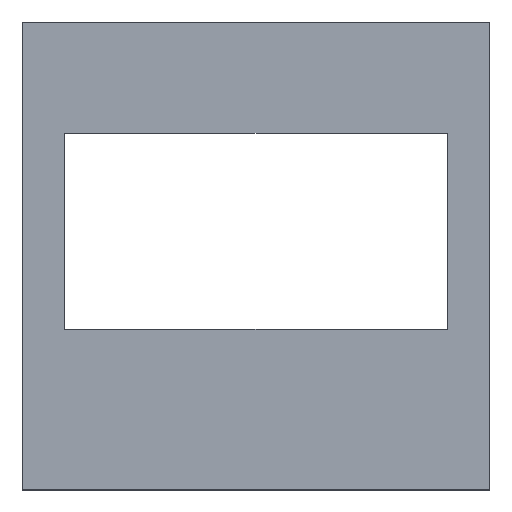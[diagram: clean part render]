
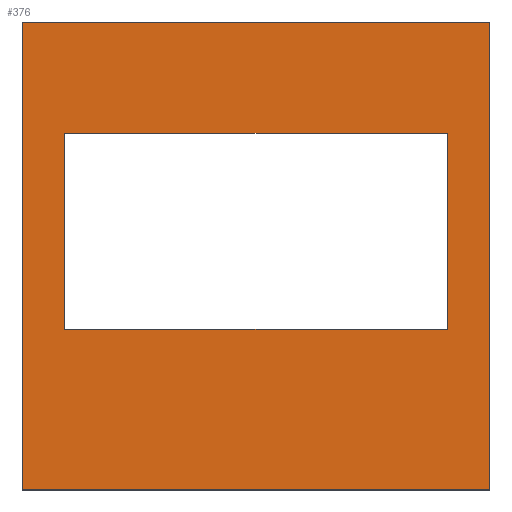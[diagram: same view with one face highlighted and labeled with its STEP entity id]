
A CAD part, top view. The second image highlights one B-rep face of the part: STEP entity #376.
In plain terms, the highlighted planar face has unit normal (0, 0, 1).
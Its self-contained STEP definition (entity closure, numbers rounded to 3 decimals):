
#32 = PLANE('',#33);
#33 = AXIS2_PLACEMENT_3D('',#34,#35,#36);
#34 = CARTESIAN_POINT('',(-13.7,13.7,-2.9));
#35 = DIRECTION('',(0.,1.,0.));
#36 = DIRECTION('',(1.,0.,0.));
#57 = VERTEX_POINT('',#58);
#58 = CARTESIAN_POINT('',(-13.7,13.7,0.));
#72 = PLANE('',#73);
#73 = AXIS2_PLACEMENT_3D('',#74,#75,#76);
#74 = CARTESIAN_POINT('',(-13.7,-13.7,-2.9));
#75 = DIRECTION('',(-1.,0.,0.));
#76 = DIRECTION('',(0.,1.,0.));
#84 = EDGE_CURVE('',#57,#85,#87,.T.);
#85 = VERTEX_POINT('',#86);
#86 = CARTESIAN_POINT('',(13.7,13.7,0.));
#87 = SURFACE_CURVE('',#88,(#92,#99),.PCURVE_S1.);
#88 = LINE('',#89,#90);
#89 = CARTESIAN_POINT('',(-13.7,13.7,0.));
#90 = VECTOR('',#91,1.);
#91 = DIRECTION('',(1.,0.,0.));
#92 = PCURVE('',#32,#93);
#93 = DEFINITIONAL_REPRESENTATION('',(#94),#98);
#94 = LINE('',#95,#96);
#95 = CARTESIAN_POINT('',(0.,-2.9));
#96 = VECTOR('',#97,1.);
#97 = DIRECTION('',(1.,0.));
#98 = ( GEOMETRIC_REPRESENTATION_CONTEXT(2) 
PARAMETRIC_REPRESENTATION_CONTEXT() REPRESENTATION_CONTEXT('2D SPACE',''
  ) );
#99 = PCURVE('',#100,#105);
#100 = PLANE('',#101);
#101 = AXIS2_PLACEMENT_3D('',#102,#103,#104);
#102 = CARTESIAN_POINT('',(0.,0.,0.));
#103 = DIRECTION('',(-0.,-0.,-1.));
#104 = DIRECTION('',(-1.,0.,0.));
#105 = DEFINITIONAL_REPRESENTATION('',(#106),#110);
#106 = LINE('',#107,#108);
#107 = CARTESIAN_POINT('',(13.7,13.7));
#108 = VECTOR('',#109,1.);
#109 = DIRECTION('',(-1.,0.));
#110 = ( GEOMETRIC_REPRESENTATION_CONTEXT(2) 
PARAMETRIC_REPRESENTATION_CONTEXT() REPRESENTATION_CONTEXT('2D SPACE',''
  ) );
#126 = PLANE('',#127);
#127 = AXIS2_PLACEMENT_3D('',#128,#129,#130);
#128 = CARTESIAN_POINT('',(13.7,13.7,-2.9));
#129 = DIRECTION('',(1.,0.,-0.));
#130 = DIRECTION('',(0.,-1.,0.));
#159 = PLANE('',#160);
#160 = AXIS2_PLACEMENT_3D('',#161,#162,#163);
#161 = CARTESIAN_POINT('',(13.7,-13.7,-2.9));
#162 = DIRECTION('',(0.,-1.,0.));
#163 = DIRECTION('',(-1.,0.,0.));
#234 = PLANE('',#235);
#235 = AXIS2_PLACEMENT_3D('',#236,#237,#238);
#236 = CARTESIAN_POINT('',(-11.2,7.2,-1.4));
#237 = DIRECTION('',(0.,1.,0.));
#238 = DIRECTION('',(1.,0.,0.));
#262 = PLANE('',#263);
#263 = AXIS2_PLACEMENT_3D('',#264,#265,#266);
#264 = CARTESIAN_POINT('',(11.2,7.2,-1.4));
#265 = DIRECTION('',(1.,0.,-0.));
#266 = DIRECTION('',(0.,-1.,0.));
#290 = PLANE('',#291);
#291 = AXIS2_PLACEMENT_3D('',#292,#293,#294);
#292 = CARTESIAN_POINT('',(11.2,-4.3,-1.4));
#293 = DIRECTION('',(0.,-1.,0.));
#294 = DIRECTION('',(-1.,0.,0.));
#316 = PLANE('',#317);
#317 = AXIS2_PLACEMENT_3D('',#318,#319,#320);
#318 = CARTESIAN_POINT('',(-11.2,-4.3,-1.4));
#319 = DIRECTION('',(-1.,0.,0.));
#320 = DIRECTION('',(0.,1.,0.));
#333 = EDGE_CURVE('',#85,#334,#336,.T.);
#334 = VERTEX_POINT('',#335);
#335 = CARTESIAN_POINT('',(13.7,-13.7,0.));
#336 = SURFACE_CURVE('',#337,(#341,#348),.PCURVE_S1.);
#337 = LINE('',#338,#339);
#338 = CARTESIAN_POINT('',(13.7,13.7,0.));
#339 = VECTOR('',#340,1.);
#340 = DIRECTION('',(0.,-1.,0.));
#341 = PCURVE('',#126,#342);
#342 = DEFINITIONAL_REPRESENTATION('',(#343),#347);
#343 = LINE('',#344,#345);
#344 = CARTESIAN_POINT('',(0.,-2.9));
#345 = VECTOR('',#346,1.);
#346 = DIRECTION('',(1.,0.));
#347 = ( GEOMETRIC_REPRESENTATION_CONTEXT(2) 
PARAMETRIC_REPRESENTATION_CONTEXT() REPRESENTATION_CONTEXT('2D SPACE',''
  ) );
#348 = PCURVE('',#100,#349);
#349 = DEFINITIONAL_REPRESENTATION('',(#350),#354);
#350 = LINE('',#351,#352);
#351 = CARTESIAN_POINT('',(-13.7,13.7));
#352 = VECTOR('',#353,1.);
#353 = DIRECTION('',(0.,-1.));
#354 = ( GEOMETRIC_REPRESENTATION_CONTEXT(2) 
PARAMETRIC_REPRESENTATION_CONTEXT() REPRESENTATION_CONTEXT('2D SPACE',''
  ) );
#376 = ADVANCED_FACE('',(#377,#425),#100,.F.);
#377 = FACE_BOUND('',#378,.F.);
#378 = EDGE_LOOP('',(#379,#380,#381,#404));
#379 = ORIENTED_EDGE('',*,*,#84,.T.);
#380 = ORIENTED_EDGE('',*,*,#333,.T.);
#381 = ORIENTED_EDGE('',*,*,#382,.T.);
#382 = EDGE_CURVE('',#334,#383,#385,.T.);
#383 = VERTEX_POINT('',#384);
#384 = CARTESIAN_POINT('',(-13.7,-13.7,0.));
#385 = SURFACE_CURVE('',#386,(#390,#397),.PCURVE_S1.);
#386 = LINE('',#387,#388);
#387 = CARTESIAN_POINT('',(13.7,-13.7,0.));
#388 = VECTOR('',#389,1.);
#389 = DIRECTION('',(-1.,0.,0.));
#390 = PCURVE('',#100,#391);
#391 = DEFINITIONAL_REPRESENTATION('',(#392),#396);
#392 = LINE('',#393,#394);
#393 = CARTESIAN_POINT('',(-13.7,-13.7));
#394 = VECTOR('',#395,1.);
#395 = DIRECTION('',(1.,0.));
#396 = ( GEOMETRIC_REPRESENTATION_CONTEXT(2) 
PARAMETRIC_REPRESENTATION_CONTEXT() REPRESENTATION_CONTEXT('2D SPACE',''
  ) );
#397 = PCURVE('',#159,#398);
#398 = DEFINITIONAL_REPRESENTATION('',(#399),#403);
#399 = LINE('',#400,#401);
#400 = CARTESIAN_POINT('',(0.,-2.9));
#401 = VECTOR('',#402,1.);
#402 = DIRECTION('',(1.,0.));
#403 = ( GEOMETRIC_REPRESENTATION_CONTEXT(2) 
PARAMETRIC_REPRESENTATION_CONTEXT() REPRESENTATION_CONTEXT('2D SPACE',''
  ) );
#404 = ORIENTED_EDGE('',*,*,#405,.T.);
#405 = EDGE_CURVE('',#383,#57,#406,.T.);
#406 = SURFACE_CURVE('',#407,(#411,#418),.PCURVE_S1.);
#407 = LINE('',#408,#409);
#408 = CARTESIAN_POINT('',(-13.7,-13.7,0.));
#409 = VECTOR('',#410,1.);
#410 = DIRECTION('',(0.,1.,0.));
#411 = PCURVE('',#100,#412);
#412 = DEFINITIONAL_REPRESENTATION('',(#413),#417);
#413 = LINE('',#414,#415);
#414 = CARTESIAN_POINT('',(13.7,-13.7));
#415 = VECTOR('',#416,1.);
#416 = DIRECTION('',(0.,1.));
#417 = ( GEOMETRIC_REPRESENTATION_CONTEXT(2) 
PARAMETRIC_REPRESENTATION_CONTEXT() REPRESENTATION_CONTEXT('2D SPACE',''
  ) );
#418 = PCURVE('',#72,#419);
#419 = DEFINITIONAL_REPRESENTATION('',(#420),#424);
#420 = LINE('',#421,#422);
#421 = CARTESIAN_POINT('',(0.,-2.9));
#422 = VECTOR('',#423,1.);
#423 = DIRECTION('',(1.,0.));
#424 = ( GEOMETRIC_REPRESENTATION_CONTEXT(2) 
PARAMETRIC_REPRESENTATION_CONTEXT() REPRESENTATION_CONTEXT('2D SPACE',''
  ) );
#425 = FACE_BOUND('',#426,.F.);
#426 = EDGE_LOOP('',(#427,#452,#475,#498));
#427 = ORIENTED_EDGE('',*,*,#428,.F.);
#428 = EDGE_CURVE('',#429,#431,#433,.T.);
#429 = VERTEX_POINT('',#430);
#430 = CARTESIAN_POINT('',(-11.2,7.2,0.));
#431 = VERTEX_POINT('',#432);
#432 = CARTESIAN_POINT('',(11.2,7.2,0.));
#433 = SURFACE_CURVE('',#434,(#438,#445),.PCURVE_S1.);
#434 = LINE('',#435,#436);
#435 = CARTESIAN_POINT('',(-11.2,7.2,0.));
#436 = VECTOR('',#437,1.);
#437 = DIRECTION('',(1.,0.,0.));
#438 = PCURVE('',#100,#439);
#439 = DEFINITIONAL_REPRESENTATION('',(#440),#444);
#440 = LINE('',#441,#442);
#441 = CARTESIAN_POINT('',(11.2,7.2));
#442 = VECTOR('',#443,1.);
#443 = DIRECTION('',(-1.,0.));
#444 = ( GEOMETRIC_REPRESENTATION_CONTEXT(2) 
PARAMETRIC_REPRESENTATION_CONTEXT() REPRESENTATION_CONTEXT('2D SPACE',''
  ) );
#445 = PCURVE('',#234,#446);
#446 = DEFINITIONAL_REPRESENTATION('',(#447),#451);
#447 = LINE('',#448,#449);
#448 = CARTESIAN_POINT('',(0.,-1.4));
#449 = VECTOR('',#450,1.);
#450 = DIRECTION('',(1.,0.));
#451 = ( GEOMETRIC_REPRESENTATION_CONTEXT(2) 
PARAMETRIC_REPRESENTATION_CONTEXT() REPRESENTATION_CONTEXT('2D SPACE',''
  ) );
#452 = ORIENTED_EDGE('',*,*,#453,.F.);
#453 = EDGE_CURVE('',#454,#429,#456,.T.);
#454 = VERTEX_POINT('',#455);
#455 = CARTESIAN_POINT('',(-11.2,-4.3,0.));
#456 = SURFACE_CURVE('',#457,(#461,#468),.PCURVE_S1.);
#457 = LINE('',#458,#459);
#458 = CARTESIAN_POINT('',(-11.2,-4.3,0.));
#459 = VECTOR('',#460,1.);
#460 = DIRECTION('',(0.,1.,0.));
#461 = PCURVE('',#100,#462);
#462 = DEFINITIONAL_REPRESENTATION('',(#463),#467);
#463 = LINE('',#464,#465);
#464 = CARTESIAN_POINT('',(11.2,-4.3));
#465 = VECTOR('',#466,1.);
#466 = DIRECTION('',(0.,1.));
#467 = ( GEOMETRIC_REPRESENTATION_CONTEXT(2) 
PARAMETRIC_REPRESENTATION_CONTEXT() REPRESENTATION_CONTEXT('2D SPACE',''
  ) );
#468 = PCURVE('',#316,#469);
#469 = DEFINITIONAL_REPRESENTATION('',(#470),#474);
#470 = LINE('',#471,#472);
#471 = CARTESIAN_POINT('',(0.,-1.4));
#472 = VECTOR('',#473,1.);
#473 = DIRECTION('',(1.,0.));
#474 = ( GEOMETRIC_REPRESENTATION_CONTEXT(2) 
PARAMETRIC_REPRESENTATION_CONTEXT() REPRESENTATION_CONTEXT('2D SPACE',''
  ) );
#475 = ORIENTED_EDGE('',*,*,#476,.F.);
#476 = EDGE_CURVE('',#477,#454,#479,.T.);
#477 = VERTEX_POINT('',#478);
#478 = CARTESIAN_POINT('',(11.2,-4.3,0.));
#479 = SURFACE_CURVE('',#480,(#484,#491),.PCURVE_S1.);
#480 = LINE('',#481,#482);
#481 = CARTESIAN_POINT('',(11.2,-4.3,0.));
#482 = VECTOR('',#483,1.);
#483 = DIRECTION('',(-1.,0.,0.));
#484 = PCURVE('',#100,#485);
#485 = DEFINITIONAL_REPRESENTATION('',(#486),#490);
#486 = LINE('',#487,#488);
#487 = CARTESIAN_POINT('',(-11.2,-4.3));
#488 = VECTOR('',#489,1.);
#489 = DIRECTION('',(1.,0.));
#490 = ( GEOMETRIC_REPRESENTATION_CONTEXT(2) 
PARAMETRIC_REPRESENTATION_CONTEXT() REPRESENTATION_CONTEXT('2D SPACE',''
  ) );
#491 = PCURVE('',#290,#492);
#492 = DEFINITIONAL_REPRESENTATION('',(#493),#497);
#493 = LINE('',#494,#495);
#494 = CARTESIAN_POINT('',(0.,-1.4));
#495 = VECTOR('',#496,1.);
#496 = DIRECTION('',(1.,0.));
#497 = ( GEOMETRIC_REPRESENTATION_CONTEXT(2) 
PARAMETRIC_REPRESENTATION_CONTEXT() REPRESENTATION_CONTEXT('2D SPACE',''
  ) );
#498 = ORIENTED_EDGE('',*,*,#499,.F.);
#499 = EDGE_CURVE('',#431,#477,#500,.T.);
#500 = SURFACE_CURVE('',#501,(#505,#512),.PCURVE_S1.);
#501 = LINE('',#502,#503);
#502 = CARTESIAN_POINT('',(11.2,7.2,0.));
#503 = VECTOR('',#504,1.);
#504 = DIRECTION('',(0.,-1.,0.));
#505 = PCURVE('',#100,#506);
#506 = DEFINITIONAL_REPRESENTATION('',(#507),#511);
#507 = LINE('',#508,#509);
#508 = CARTESIAN_POINT('',(-11.2,7.2));
#509 = VECTOR('',#510,1.);
#510 = DIRECTION('',(0.,-1.));
#511 = ( GEOMETRIC_REPRESENTATION_CONTEXT(2) 
PARAMETRIC_REPRESENTATION_CONTEXT() REPRESENTATION_CONTEXT('2D SPACE',''
  ) );
#512 = PCURVE('',#262,#513);
#513 = DEFINITIONAL_REPRESENTATION('',(#514),#518);
#514 = LINE('',#515,#516);
#515 = CARTESIAN_POINT('',(0.,-1.4));
#516 = VECTOR('',#517,1.);
#517 = DIRECTION('',(1.,0.));
#518 = ( GEOMETRIC_REPRESENTATION_CONTEXT(2) 
PARAMETRIC_REPRESENTATION_CONTEXT() REPRESENTATION_CONTEXT('2D SPACE',''
  ) );
